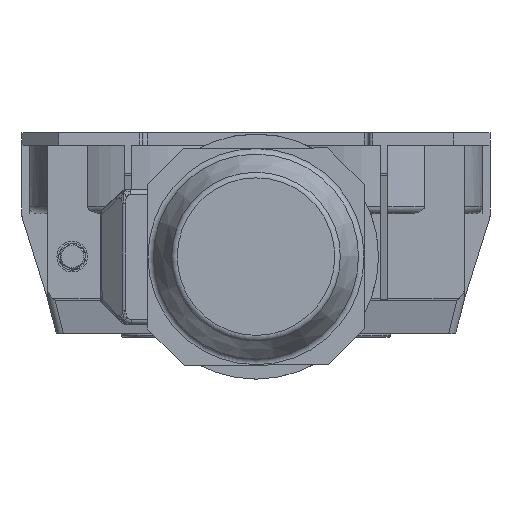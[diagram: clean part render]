
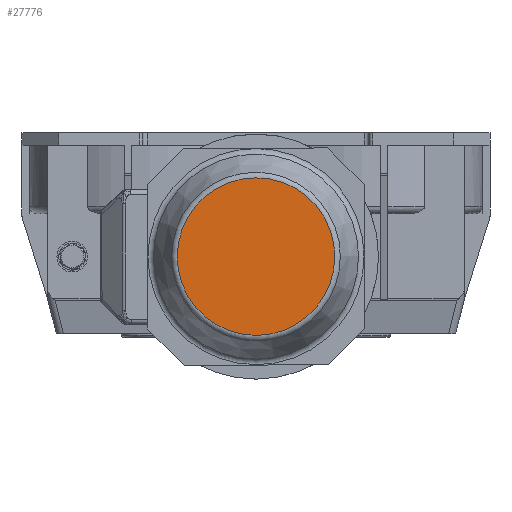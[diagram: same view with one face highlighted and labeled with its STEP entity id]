
A CAD part, front view. The second image highlights one B-rep face of the part: STEP entity #27776.
In plain terms, the highlighted planar face has unit normal (0, -1, 0) as drawn and (1, 0, 0) by its records, which use the part's own axes.
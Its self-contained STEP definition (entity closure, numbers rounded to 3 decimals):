
#27753=CARTESIAN_POINT('',(282.,0.0,64.298));
#27754=VERTEX_POINT('',#27753);
#27755=CARTESIAN_POINT('',(282.,0.0,0.0));
#27756=DIRECTION('',(-1.0,0.0,0.0));
#27757=DIRECTION('',(0.0,0.0,-1.0));
#27758=AXIS2_PLACEMENT_3D('',#27755,#27756,#27757);
#27759=CIRCLE('',#27758,64.298);
#27760=EDGE_CURVE('',#27754,#27754,#27759,.T.);
#27768=CARTESIAN_POINT('',(282.,0.0,33.75));
#27769=DIRECTION('',(1.0,0.0,0.0));
#27770=DIRECTION('',(0.0,0.0,-1.0));
#27771=AXIS2_PLACEMENT_3D('',#27768,#27769,#27770);
#27772=PLANE('',#27771);
#27773=ORIENTED_EDGE('',*,*,#27760,.F.);
#27774=EDGE_LOOP('',(#27773));
#27775=FACE_OUTER_BOUND('',#27774,.T.);
#27776=ADVANCED_FACE('',(#27775),#27772,.T.);
